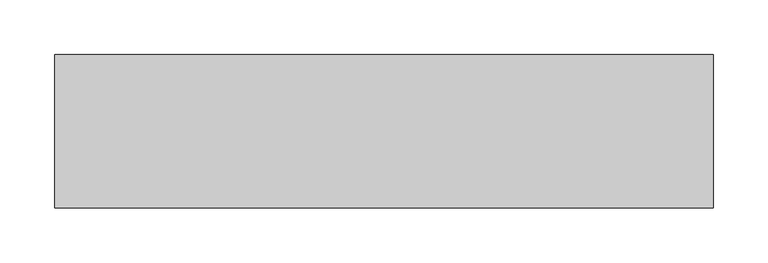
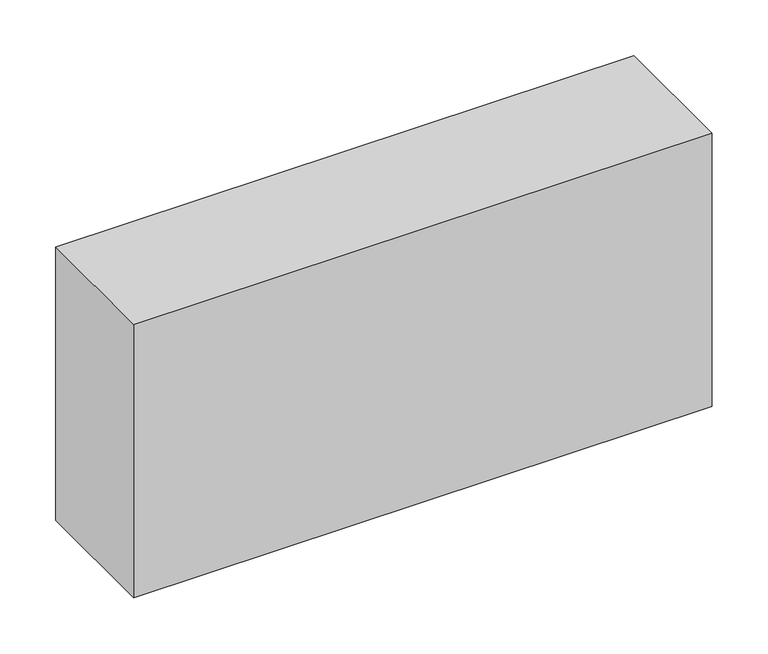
"""IFC4 building model written with IfcOpenShell, lengths in millimetres: proxy geometry, Módulo de Vedação de Concreto Celular - Celucon : MVCC 14x30x60cm (L x A x C)."""

import ifcopenshell
import ifcopenshell.guid

model = None  # the IFC model being written
_history = None  # IfcOwnerHistory: only IFC2X3 demands one
_inside = {}  # id of a spatial element -> (the spatial element, [elements in it])
_under = {}  # id of a project, library or spatial element -> (it, [spatial elements below it])
_declared = {}  # id of a project -> (the project, [libraries it declares])
_typed = {}  # id of a type object -> (the type object, [elements of that type])
_made_of = {}  # id of a material, layer set ... -> (it, [elements and type objects made of it])


def new_model(schema):
    """Start an empty IFC model of exactly this schema.

    Asked for "IFC4X3", IfcOpenShell would pick the latest addendum, in which some entities
    have other attributes; the version numbers below select the first issue.
    IFC2X3 requires an IfcOwnerHistory on every rooted entity: one is made here for all.
    """
    global model, _history
    if schema == "IFC4X3":
        model = ifcopenshell.file(schema_version=(4, 3, 0, 0))
    else:
        model = ifcopenshell.file(schema=schema)
    _inside.clear()
    _under.clear()
    _declared.clear()
    _typed.clear()
    _made_of.clear()
    _history = None
    if model.schema == "IFC2X3":
        org = make("IfcOrganization", Name="unknown")
        user = make(
            "IfcPersonAndOrganization",
            ThePerson=make("IfcPerson", FamilyName="unknown"),
            TheOrganization=org,
        )
        app = make(
            "IfcApplication",
            ApplicationDeveloper=org,
            Version="unknown",
            ApplicationFullName="unknown",
            ApplicationIdentifier="unknown",
        )
        _history = make(
            "IfcOwnerHistory",
            OwningUser=user,
            OwningApplication=app,
            ChangeAction="ADDED",
            CreationDate=0,
        )
    return model


def make(cls, **values):
    """One entity of the class cls with the attributes given. An attribute that is None is left unset."""
    return model.create_entity(
        cls, **{name: value for name, value in values.items() if value is not None}
    )


def rooted(cls, **values):
    """An entity with a GlobalId (a new one), such as an element, a storey or a relation."""
    return make(cls, GlobalId=ifcopenshell.guid.new(), OwnerHistory=_history, **values)


def si_unit(unit_type, name, prefix=None):
    """IfcSIUnit, for example si_unit("LENGTHUNIT", "METRE", prefix="MILLI")."""
    return make("IfcSIUnit", UnitType=unit_type, Prefix=prefix, Name=name)


def assignment(units):
    """IfcUnitAssignment: the units of a project."""
    return None if units is None else make("IfcUnitAssignment", Units=units)


def point(xyz):
    """IfcCartesianPoint."""
    return None if xyz is None else make("IfcCartesianPoint", Coordinates=xyz)


def direction(xyz):
    """IfcDirection."""
    return None if xyz is None else make("IfcDirection", DirectionRatios=xyz)


def frame(location, z_axis=None, x_axis=None):
    """IfcAxis2Placement3D, a coordinate frame: its origin and axes. An axis left out is left unset."""
    return make(
        "IfcAxis2Placement3D",
        Location=point(location),
        Axis=direction(z_axis),
        RefDirection=direction(x_axis),
    )


def origin():
    """The frame at (0, 0, 0) with its axes left unset."""
    return frame((0.0, 0.0, 0.0))


def origin_with_axes():
    """The frame at (0, 0, 0) with the z axis (0, 0, 1) and the x axis (1, 0, 0) written out."""
    return frame((0.0, 0.0, 0.0), z_axis=(0.0, 0.0, 1.0), x_axis=(1.0, 0.0, 0.0))


def place(relative_to, where):
    """IfcLocalPlacement: puts the frame where relative to a parent placement (None: the world)."""
    return make(
        "IfcLocalPlacement", PlacementRelTo=relative_to, RelativePlacement=where
    )


def context(
    kind, dimensions, precision=None, world=None, true_north=None, identifier=None
):
    """IfcGeometricRepresentationContext, for example the 3D "Model" context."""
    return make(
        "IfcGeometricRepresentationContext",
        ContextIdentifier=identifier,
        ContextType=kind,
        CoordinateSpaceDimension=dimensions,
        Precision=precision,
        WorldCoordinateSystem=world,
        TrueNorth=true_north,
    )


def project(units=None, contexts=None):
    """IfcProject with its units and contexts."""
    return rooted(
        "IfcProject",
        Name="project",
        RepresentationContexts=contexts,
        UnitsInContext=assignment(units),
    )


def spatial(cls, under=None, at=None, **own):
    """A site, building, storey or space (cls), placed at a placement, below another one or the project."""
    s = rooted(cls, ObjectPlacement=at, **own)
    if under is not None:
        _under.setdefault(under.id(), (under, []))[1].append(s)
    return s


def polyline(points):
    """IfcPolyline through the points."""
    return make("IfcPolyline", Points=[point(p) for p in points])


def outline(outer, holes=None, kind="AREA"):
    """IfcArbitraryClosedProfileDef: a profile drawn as a closed curve; with holes, ...WithVoids."""
    if holes is None:
        return make("IfcArbitraryClosedProfileDef", ProfileType=kind, OuterCurve=outer)
    return make(
        "IfcArbitraryProfileDefWithVoids",
        ProfileType=kind,
        OuterCurve=outer,
        InnerCurves=holes,
    )


def extrude(swept, where, along, depth):
    """IfcExtrudedAreaSolid: the profile swept, set in the frame where, extruded along a direction by depth."""
    return make(
        "IfcExtrudedAreaSolid",
        SweptArea=swept,
        Position=where,
        ExtrudedDirection=direction(along),
        Depth=depth,
    )


def shape(context_of_items, identifier, shape_type, items):
    """IfcShapeRepresentation: the items that make up one representation, for example the "Body"."""
    return make(
        "IfcShapeRepresentation",
        ContextOfItems=context_of_items,
        RepresentationIdentifier=identifier,
        RepresentationType=shape_type,
        Items=items,
    )


def source(mapping_origin, context_of_items, identifier, shape_type, items):
    """IfcRepresentationMap: a shape defined once, which mapped items show again and again."""
    return make(
        "IfcRepresentationMap",
        MappingOrigin=mapping_origin,
        MappedRepresentation=shape(context_of_items, identifier, shape_type, items),
    )


def transform(
    local_origin,
    x_axis=None,
    y_axis=None,
    z_axis=None,
    scale=None,
    scale2=None,
    scale3=None,
    uniform=True,
):
    """IfcCartesianTransformationOperator3D, or its non-uniform kind. x_axis, y_axis, z_axis: its Axis1, 2, 3."""
    if uniform:
        return make(
            "IfcCartesianTransformationOperator3D",
            Axis1=direction(x_axis),
            Axis2=direction(y_axis),
            LocalOrigin=point(local_origin),
            Scale=scale,
            Axis3=direction(z_axis),
        )
    return make(
        "IfcCartesianTransformationOperator3DnonUniform",
        Axis1=direction(x_axis),
        Axis2=direction(y_axis),
        LocalOrigin=point(local_origin),
        Scale=scale,
        Axis3=direction(z_axis),
        Scale2=scale2,
        Scale3=scale3,
    )


def mapped(mapping_source, mapping_target):
    """IfcMappedItem: shows the shape of a source again, moved by a transform."""
    return make(
        "IfcMappedItem", MappingSource=mapping_source, MappingTarget=mapping_target
    )


def made_of(thing, what):
    """Note that an element or type object is made of a material, layer set ...; save() writes the relation."""
    if what is not None:
        _made_of.setdefault(what.id(), (what, []))[1].append(thing)
    return thing


def element(
    cls,
    number,
    at=None,
    inside=None,
    cuts=None,
    type_object=None,
    material=None,
    context=None,
    identifier="Body",
    shape_type=None,
    held_by="IfcProductDefinitionShape",
    body=None,
    shapes=None,
    **own,
):
    """One element of the class cls, such as IfcWall. Its Tag is "e" and its number.

    at: its placement. inside: the storey or other place that contains it. cuts: it is an
    opening in that element (IfcRelVoidsElement). A single representation is given by context,
    identifier, shape_type and body (its items); several are given by shapes. held_by: the class
    of the entity that holds the representations. save() writes the other relations.
    """
    e = rooted(cls, Tag="e%d" % number, ObjectPlacement=at, **own)
    if body is not None:
        shapes = [shape(context, identifier, shape_type, body)]
    if shapes is not None:
        e.Representation = make(held_by, Representations=shapes)
    if inside is not None:
        _inside.setdefault(inside.id(), (inside, []))[1].append(e)
    if cuts is not None:
        rooted(
            "IfcRelVoidsElement", RelatingBuildingElement=cuts, RelatedOpeningElement=e
        )
    if type_object is not None:
        _typed.setdefault(type_object.id(), (type_object, []))[1].append(e)
    return made_of(e, material)


def aggregate(whole, parts):
    """IfcRelAggregates: a whole, such as a stair, and the parts it consists of."""
    return rooted("IfcRelAggregates", RelatingObject=whole, RelatedObjects=parts)


def save(model, path):
    """Write the relations noted so far, then the file.

    IfcRelAggregates (storeys below a building ...), IfcRelContainedInSpatialStructure (elements
    in a storey), IfcRelDefinesByType, IfcRelAssociatesMaterial and IfcRelDeclares: one each for
    every whole, place, type object, material and project.
    """
    for whole, parts in _under.values():
        aggregate(whole, parts)
    for where, things in _inside.values():
        rooted(
            "IfcRelContainedInSpatialStructure",
            RelatedElements=things,
            RelatingStructure=where,
        )
    for kind, things in _typed.values():
        rooted("IfcRelDefinesByType", RelatedObjects=things, RelatingType=kind)
    for what, things in _made_of.values():
        rooted("IfcRelAssociatesMaterial", RelatedObjects=things, RelatingMaterial=what)
    for by, libraries in _declared.values():
        rooted("IfcRelDeclares", RelatingContext=by, RelatedDefinitions=libraries)
    model.write(path)


def generic_models_097b7d26(model_context):
    return source(origin(), model_context, "Body", "SweptSolid", [
        extrude(outline(polyline([(300.0, 70.0), (300.0, -70.0), (-300.0, -70.0), (-300.0, 70.0), (300.0, 70.0)])), origin_with_axes(), (0.0, 0.0, 1.0), 300.0),
    ])


if __name__ == "__main__":
    model = new_model("IFC4")
    model_context = context("Model", 3, world=origin())
    ifc_project = project(units=[si_unit("LENGTHUNIT", "METRE", prefix="MILLI")], contexts=[model_context])
    site = spatial("IfcSite", under=ifc_project)
    building = spatial("IfcBuilding", under=site)
    placement = place(None, origin())
    generic_models_shape = generic_models_097b7d26(model_context)
    element("IfcBuildingElementProxy", 1, Name="Módulo de Vedação de Concreto Celular - Celucon : MVCC 14x30x60cm (L x A x C)", ObjectType="Módulo de Vedação de Concreto Celular - Celucon : MVCC 14x30x60cm (L x A x C)", at=placement, inside=building, context=model_context, shape_type="MappedRepresentation", body=[
        mapped(generic_models_shape, transform((0.0, 0.0, 0.0), x_axis=(1.0, 0.0, 0.0), y_axis=(0.0, 1.0, 0.0), z_axis=(0.0, 0.0, 1.0))),
    ])
    save(model, "model.ifc")
